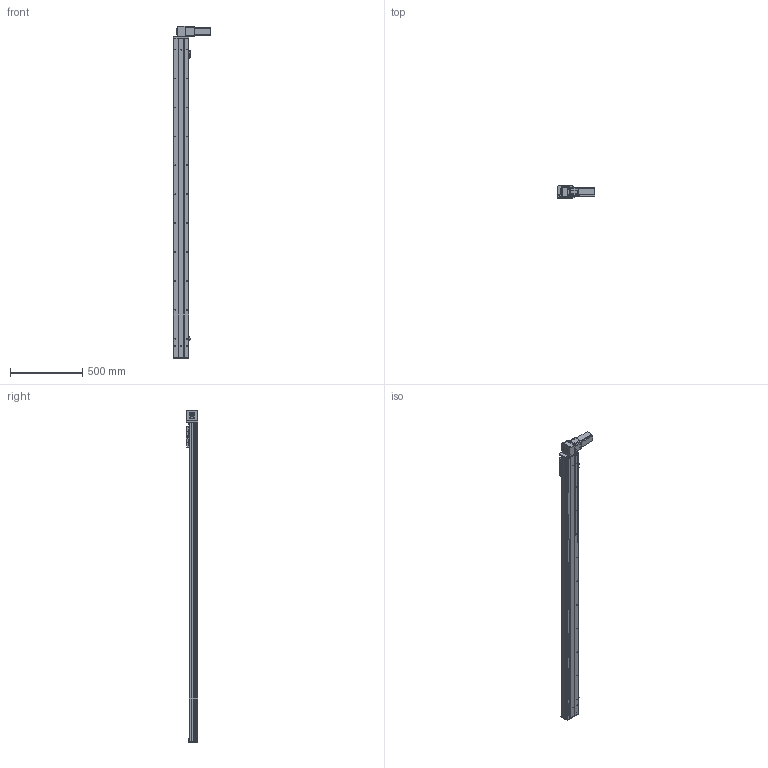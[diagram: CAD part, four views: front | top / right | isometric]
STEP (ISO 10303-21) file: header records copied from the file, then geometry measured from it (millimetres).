
FILE_DESCRIPTION (( 'STEP AP203' ), '1' );
FILE_NAME ('Y10CB-D90-S1950-BD-P400W.STEP', '2020-02-17T02:53:31', ( '微软用户' ), ( '微软中国' ), 'SwSTEP 2.0', 'SolidWorks 2017', '' );
FILE_SCHEMA (( 'CONFIG_CONTROL_DESIGN' ));
Length unit declared in the file: millimetre
Products named in the file (16): san松下电机400不带刹车----; Y100-135俋离換覜ん--; 0B-源倛裔啣; Y10B--々湍喘謫眊--666; 0B-埴倛裔啣; 0B-薊粣ん眊; 10CB-詩湍-; Y10CB-D90-S1950-BD-P400W; Y10CB- 掛极耜裔啣-毀---; Y10C---詩湍揤啣; 0CB-雄赽釱---; 10CB9-掛极; 0Cb-俋欶---; 10CB-耜裔; Y10B-々湍喘謫眊楊擘啣--; Y135C-陔俋离換覜結え-
Assembly tree (19 placements, depth 2):
  Y10CB-D90-S1950-BD-P400W
    0CB-雄赽釱---
    0Cb-俋欶---
    Y10B-々湍喘謫眊楊擘啣--
    san松下电机400不带刹车----
    0B-源倛裔啣
    0B-埴倛裔啣
    10CB-詩湍-
    Y10CB- 掛极耜裔啣-毀---  x2
    Y10C---詩湍揤啣  x2
    10CB9-掛极
    10CB-耜裔
    Y135C-陔俋离換覜結え-
    Y100-135俋离換覜ん--  x3
    Y10B--々湍喘謫眊--666
    0B-薊粣ん眊
Bounding box: 258 x 80.5 x 2296 mm (x, y, z)
Volume: 4793841.1 mm3; surface area: 2204268 mm2
Topology: 19 solids, 19 shells, 960 faces, 2582 edges, 1676 vertices
Faces by surface type: cylinder 490, plane 446, cone 24
Entity records: 30069 total; most frequent: CARTESIAN_POINT 5644, DIRECTION 4797, ORIENTED_EDGE 4634, EDGE_CURVE 2317, AXIS2_PLACEMENT_3D 1719, VERTEX_POINT 1502, VECTOR 1359, LINE 1359
